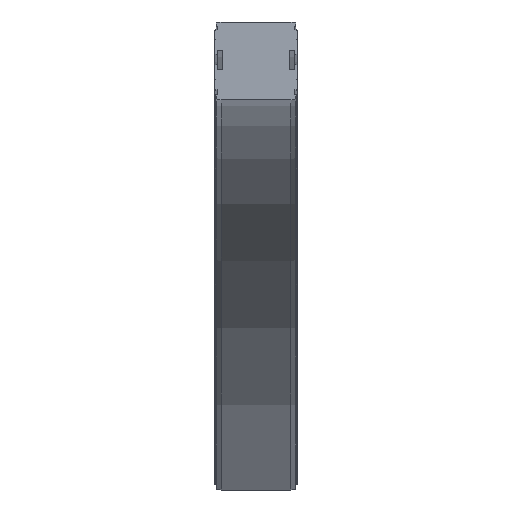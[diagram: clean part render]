
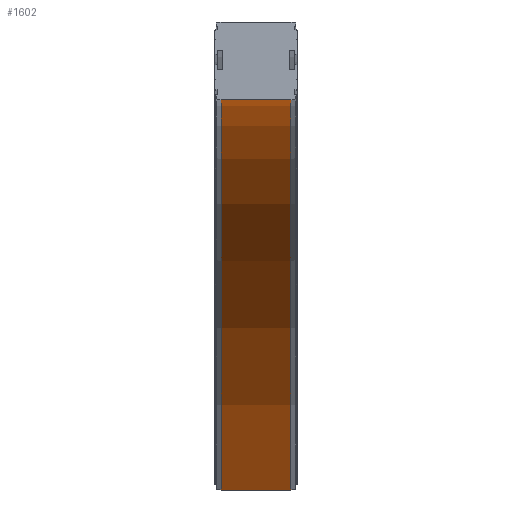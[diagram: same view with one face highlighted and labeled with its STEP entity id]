
A CAD part, left-side view. The second image highlights one B-rep face of the part: STEP entity #1602.
In plain terms, the highlighted cylindrical face has radius 818 mm (diameter 1636 mm), a partial arc.
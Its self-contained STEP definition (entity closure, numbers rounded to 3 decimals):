
#1561=CARTESIAN_POINT('',(0.,-18.25,-899.5));
#1562=DIRECTION('',(0.0,1.0,0.0));
#1563=DIRECTION('',(0.0,0.0,1.0));
#1564=AXIS2_PLACEMENT_3D('',#1561,#1562,#1563);
#1565=CYLINDRICAL_SURFACE('',#1564,818.);
#1566=CARTESIAN_POINT('',(708.409,36.5,-490.5));
#1567=VERTEX_POINT('',#1566);
#1568=CARTESIAN_POINT('',(708.409,-36.5,-490.5));
#1569=VERTEX_POINT('',#1568);
#1570=CARTESIAN_POINT('',(708.409,36.5,-490.5));
#1571=DIRECTION('',(0.0,-1.0,0.0));
#1572=VECTOR('',#1571,73.0);
#1573=LINE('',#1570,#1572);
#1574=EDGE_CURVE('',#1567,#1569,#1573,.T.);
#1575=ORIENTED_EDGE('',*,*,#1574,.T.);
#1576=CARTESIAN_POINT('',(0.0,-36.5,-81.5));
#1577=VERTEX_POINT('',#1576);
#1578=CARTESIAN_POINT('',(0.,-36.5,-899.5));
#1579=DIRECTION('',(0.0,1.0,0.0));
#1580=DIRECTION('',(0.0,0.0,1.0));
#1581=AXIS2_PLACEMENT_3D('',#1578,#1579,#1580);
#1582=CIRCLE('',#1581,818.);
#1583=EDGE_CURVE('',#1577,#1569,#1582,.T.);
#1584=ORIENTED_EDGE('',*,*,#1583,.F.);
#1585=CARTESIAN_POINT('',(0.0,36.5,-81.5));
#1586=VERTEX_POINT('',#1585);
#1587=CARTESIAN_POINT('',(0.0,-36.5,-81.5));
#1588=DIRECTION('',(0.0,1.0,0.0));
#1589=VECTOR('',#1588,73.0);
#1590=LINE('',#1587,#1589);
#1591=EDGE_CURVE('',#1577,#1586,#1590,.T.);
#1592=ORIENTED_EDGE('',*,*,#1591,.T.);
#1593=CARTESIAN_POINT('',(0.,36.5,-899.5));
#1594=DIRECTION('',(0.0,1.0,0.0));
#1595=DIRECTION('',(0.0,0.0,1.0));
#1596=AXIS2_PLACEMENT_3D('',#1593,#1594,#1595);
#1597=CIRCLE('',#1596,818.);
#1598=EDGE_CURVE('',#1586,#1567,#1597,.T.);
#1599=ORIENTED_EDGE('',*,*,#1598,.T.);
#1600=EDGE_LOOP('',(#1575,#1584,#1592,#1599));
#1601=FACE_OUTER_BOUND('',#1600,.T.);
#1602=ADVANCED_FACE('',(#1601),#1565,.F.);
